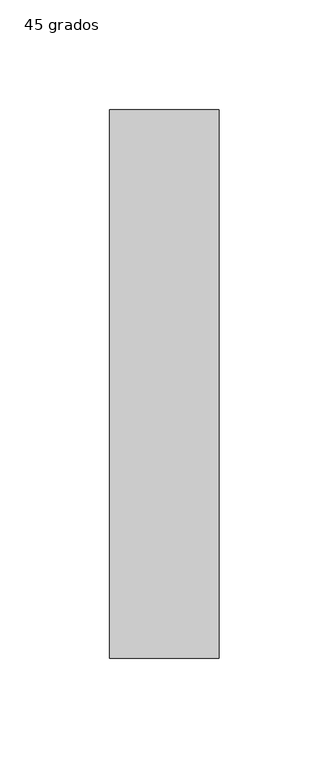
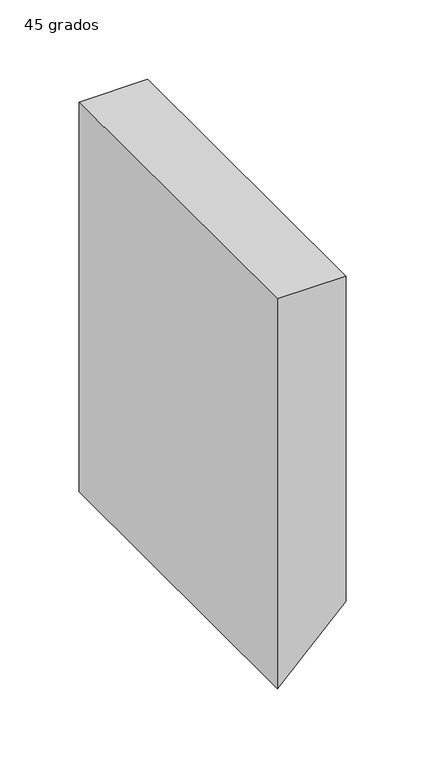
"""IFC4 building model written with IfcOpenShell, lengths in millimetres: duct fitting geometry, M_Transición rectangular - Ángulo : 45 grados."""

from ifc_helpers import new_model, si_unit, frame, origin, place, context, project, spatial, polyline, outline, extrude, source, transform, mapped, element, save


def duct_fitting_45_grados_92c05d00(model_context):
    return source(origin(), model_context, "Body", "SweptSolid", [
        extrude(outline(polyline([(150.0, 0.0), (-150.0, 0.0), (-100.0, 50.0), (150.0, 50.0), (150.0, 0.0)])), frame((0.0, -125.0, 0.0), z_axis=(0.0, 1.0, 0.0), x_axis=(0.0, 0.0, 1.0)), (0.0, 0.0, 1.0), 250.0),
    ])


if __name__ == "__main__":
    model = new_model("IFC4")
    model_context = context("Model", 3, world=origin())
    ifc_project = project(units=[si_unit("LENGTHUNIT", "METRE", prefix="MILLI")], contexts=[model_context])
    site = spatial("IfcSite", under=ifc_project)
    building = spatial("IfcBuilding", under=site)
    placement = place(None, origin())
    duct_fitting_45_grados_shape = duct_fitting_45_grados_92c05d00(model_context)
    element("IfcDuctFitting", 1, ObjectType="M_Transición rectangular - Ángulo : 45 grados", at=placement, inside=building, context=model_context, shape_type="MappedRepresentation", body=[
        mapped(duct_fitting_45_grados_shape, transform((0.0, 0.0, 0.0), x_axis=(1.0, 0.0, 0.0), y_axis=(0.0, 1.0, 0.0), z_axis=(0.0, 0.0, 1.0))),
    ])
    save(model, "model.ifc")
